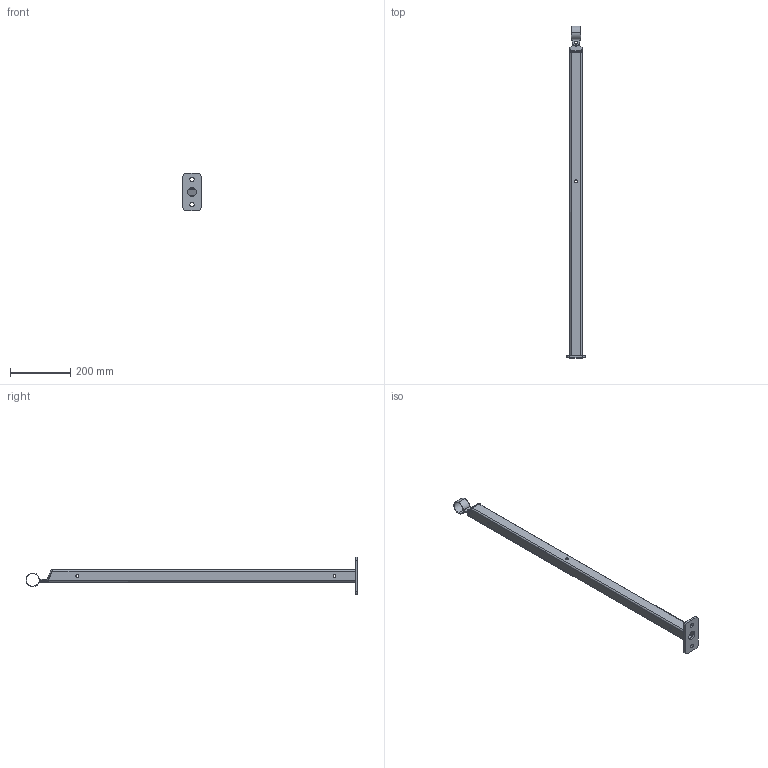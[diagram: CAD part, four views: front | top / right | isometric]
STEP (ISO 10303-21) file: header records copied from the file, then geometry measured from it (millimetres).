
FILE_DESCRIPTION (( 'STEP AP203' ), '1' );
FILE_NAME ('Ståndare KKR 40x40x3 toppmontage för rundstångsräcke.STEP', '2014-09-26T06:33:02', ( '' ), ( '' ), 'SwSTEP 2.0', 'SolidWorks 2014', '' );
FILE_SCHEMA (( 'CONFIG_CONTROL_DESIGN' ));
Length unit declared in the file: millimetre
Products named in the file (1): Ståndare KKR 40x40x3 toppmontage för rundstångsräcke
Bounding box: 60 x 1101.5 x 126 mm (x, y, z)
Volume: 500130.4 mm3; surface area: 325696.3 mm2
Topology: 2 solids, 2 shells, 208 faces, 537 edges, 334 vertices
Faces by surface type: plane 108, cylinder 96, bspline 4
Entity records: 6496 total; most frequent: CARTESIAN_POINT 1402, ORIENTED_EDGE 1066, DIRECTION 1029, EDGE_CURVE 533, AXIS2_PLACEMENT_3D 345, LINE 339, VECTOR 339, VERTEX_POINT 334
